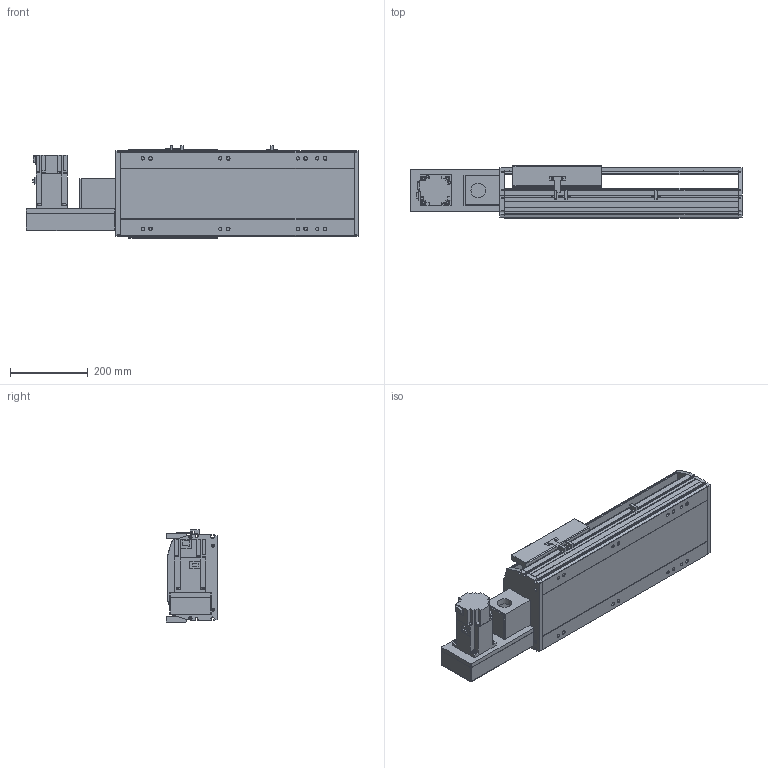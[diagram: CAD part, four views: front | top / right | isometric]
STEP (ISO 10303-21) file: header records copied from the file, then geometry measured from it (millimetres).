
FILE_DESCRIPTION(/* description */ ('STEP AP214'),/* implementation_level */ '2;1');
FILE_NAME(/* name */ 'PBS220-P40-S250-L-T75-C1-N(0)',/* time_stamp */ '2022-06-11T09:53:10+02:00',/* author */ ('License CC BY-ND 4.0'),/* organization */ ('CADENAS'),/* preprocessor_version */ 'ST-DEVELOPER v18.102',/* originating_system */ 'PARTsolutions',/* authorisation */ ' ');
FILE_SCHEMA (('AUTOMOTIVE_DESIGN {1 0 10303 214 3 1 1}'));
Length unit declared in the file: millimetre
Products named in the file (7): PBS220-P40-S250-L-T75-C1-N(0); PBS220_sensor; PBS220_plant; PBS220_sliser; T75-p1; PBS220T-L_motors; PBS220-S250()_body
Assembly tree (8 placements, depth 2):
  PBS220-P40-S250-L-T75-C1-N(0)
    PBS220_sensor  x3
    PBS220_plant
    PBS220_sliser
    T75-p1
    PBS220T-L_motors
    PBS220-S250()_body
Bounding box: 856 x 134 x 238.5 mm (x, y, z)
Volume: 11352156.5 mm3; surface area: 1242226.7 mm2
Topology: 8 solids, 8 shells, 866 faces, 2284 edges, 1486 vertices
Faces by surface type: plane 582, cylinder 252, cone 32
Full cylindrical faces by diameter (mm): 2.013 x4, 4.5 x14, 4.917 x4, 6 x7, 6.647 x8, 8 x10, 8.376 x8, 8.5 x8, 10 x6, 14 x8, 38 x2, 40 x1, 70 x1
Entity records: 24381 total; most frequent: DIRECTION 4239, CARTESIAN_POINT 4228, ORIENTED_EDGE 3962, EDGE_CURVE 1981, AXIS2_PLACEMENT_3D 1451, VERTEX_POINT 1352, LINE 1337, VECTOR 1337
